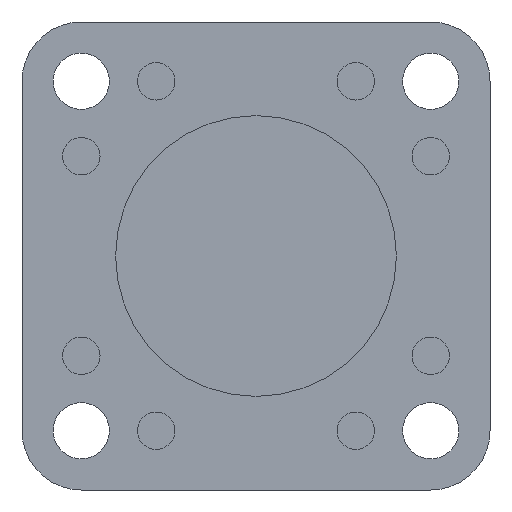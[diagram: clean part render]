
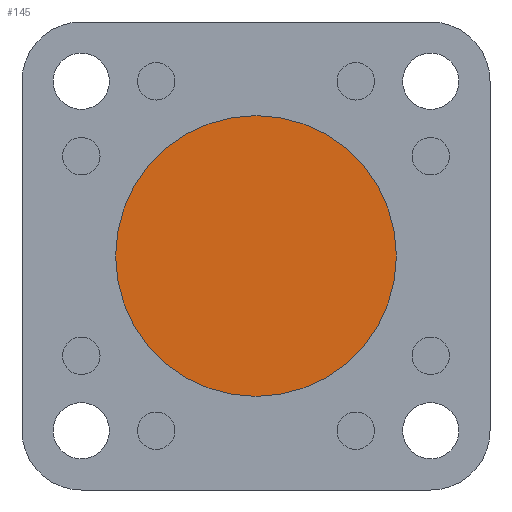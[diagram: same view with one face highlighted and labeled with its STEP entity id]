
A CAD part, front view. The second image highlights one B-rep face of the part: STEP entity #145.
In plain terms, the highlighted planar face has unit normal (0, -1, 0).
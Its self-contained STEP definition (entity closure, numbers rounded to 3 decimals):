
#145 = ADVANCED_FACE( '', ( #374 ), #375, .F. );
#374 = FACE_OUTER_BOUND( '', #699, .T. );
#375 = PLANE( '', #700 );
#699 = EDGE_LOOP( '', ( #1089 ) );
#700 = AXIS2_PLACEMENT_3D( '', #1090, #1091, #1092 );
#1089 = ORIENTED_EDGE( '', *, *, #1706, .F. );
#1090 = CARTESIAN_POINT( '', ( 0., 5., 0. ) );
#1091 = DIRECTION( '', ( 0., 1., 0. ) );
#1092 = DIRECTION( '', ( 0., 0., 1. ) );
#1706 = EDGE_CURVE( '', #2022, #2022, #2023, .T. );
#2022 = VERTEX_POINT( '', #2424 );
#2023 = CIRCLE( '', #2425, 22.5 );
#2424 = CARTESIAN_POINT( '', ( 22.5, 5., 0. ) );
#2425 = AXIS2_PLACEMENT_3D( '', #2847, #2848, #2849 );
#2847 = CARTESIAN_POINT( '', ( 0., 5., 0. ) );
#2848 = DIRECTION( '', ( 0., 1., 0. ) );
#2849 = DIRECTION( '', ( 1., 0., 0. ) );
